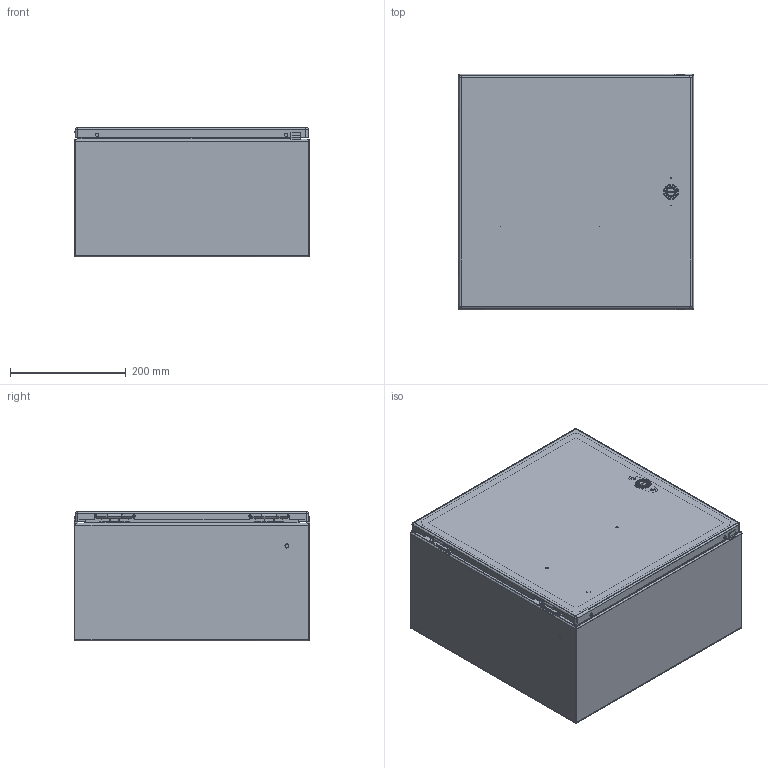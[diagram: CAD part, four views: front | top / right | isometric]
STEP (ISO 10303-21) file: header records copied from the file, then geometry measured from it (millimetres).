
FILE_DESCRIPTION (( 'STEP AP203' ), '1' );
FILE_NAME ('csd16168.STEP', '2012-05-10T15:52:43', ( 'User' ), ( 'Pentair Inc' ), 'SwSTEP 2.0', 'SolidWorks 2010', '' );
FILE_SCHEMA (( 'CONFIG_CONTROL_DESIGN' ));
Length unit declared in the file: inch
Products named in the file (27): 87934520; 87934362_default; 23271001_After Weld; 87937919_assy; 87937959_weldment; 87937907; 99401225; 87931362_87931362; 64101001; 64201001; 87541994_Installed Height; 87541995; 64202001; 64210001; 64203001; 87927840_87927840; 87932903; 64138001; 87937997; 87543027; 89076399; 89076193; 89056623; 87929507; 87929767; 87929769_Installed on Pin; csd16168
Assembly tree (38 placements, depth 4):
  csd16168
    89076399  x2
      89056623
      89076193
    87929507  x2
      87929767
      87929769_Installed on Pin
    87937919_assy
      87932903  x2
      87937997
      64138001  x2
      64101001
        87927840_87927840
        64210001
        87541995
        64203001
        87541994_Installed Height
        64202001
        64201001
      87937959_weldment
        87931362_87931362  x4
        87937907
        99401225
    87934520
      23271001_After Weld  x4
      87934362_default
      99401225
    87543027  x2
Bounding box: 406.4 x 407.13 x 223.9 mm (x, y, z)
Volume: 1028084.1 mm3; surface area: 1552303.7 mm2
Topology: 35 solids, 35 shells, 1689 faces, 4125 edges, 2490 vertices
Faces by surface type: plane 652, cylinder 547, bspline 288, torus 106, cone 88, sphere 8
Entity records: 46223 total; most frequent: CARTESIAN_POINT 16302, ORIENTED_EDGE 5874, DIRECTION 5117, EDGE_CURVE 2937, AXIS2_PLACEMENT_3D 1833, VERTEX_POINT 1802, VECTOR 1451, LINE 1451
